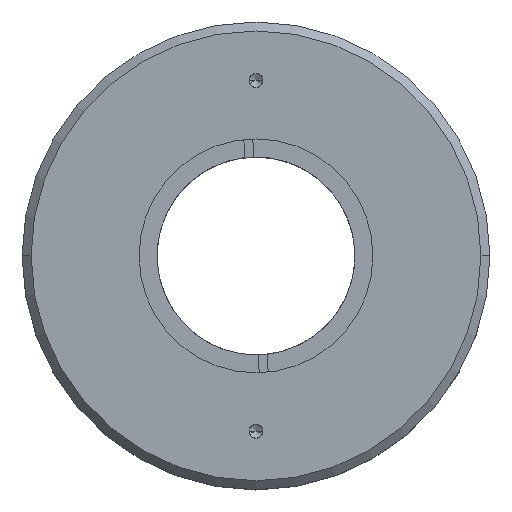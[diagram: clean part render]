
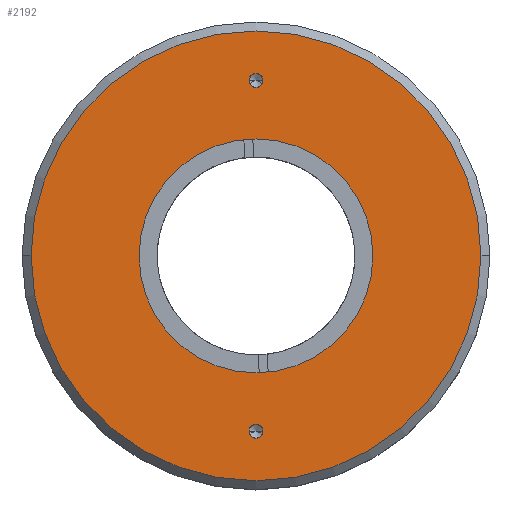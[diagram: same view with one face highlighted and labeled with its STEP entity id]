
A CAD part, top view. The second image highlights one B-rep face of the part: STEP entity #2192.
In plain terms, the highlighted planar face has unit normal (0, 0, 1).
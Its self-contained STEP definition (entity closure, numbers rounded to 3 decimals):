
#24 = DIRECTION ( 'NONE',  ( 1., 0., 0. ) ) ;
#35 = ORIENTED_EDGE ( 'NONE', *, *, #4574, .F. ) ;
#136 = CARTESIAN_POINT ( 'NONE',  ( -8.119, -2.293, 59.5 ) ) ;
#137 = CARTESIAN_POINT ( 'NONE',  ( -7.344, -21.793, 59.5 ) ) ;
#333 = CIRCLE ( 'NONE', #7003, 25. ) ;
#473 = DIRECTION ( 'NONE',  ( 0., 0., 1. ) ) ;
#476 = ORIENTED_EDGE ( 'NONE', *, *, #1458, .F. ) ;
#497 = VERTEX_POINT ( 'NONE', #6366 ) ;
#652 = DIRECTION ( 'NONE',  ( 1., 0., 0. ) ) ;
#773 = DIRECTION ( 'NONE',  ( 1., 0., 0. ) ) ;
#906 = DIRECTION ( 'NONE',  ( 0., 0., 1. ) ) ;
#999 = DIRECTION ( 'NONE',  ( 0., 0., 1. ) ) ;
#1026 = CARTESIAN_POINT ( 'NONE',  ( -8.119, -2.293, 59.5 ) ) ;
#1105 = AXIS2_PLACEMENT_3D ( 'NONE', #1026, #1128, #3228 ) ;
#1128 = DIRECTION ( 'NONE',  ( 0., 0., 1. ) ) ;
#1207 = DIRECTION ( 'NONE',  ( 1., 0., 0. ) ) ;
#1253 = DIRECTION ( 'NONE',  ( 1., 0., 0. ) ) ;
#1313 = CIRCLE ( 'NONE', #6515, 0.775 ) ;
#1458 = EDGE_CURVE ( 'NONE', #5851, #4945, #6759, .T. ) ;
#1538 = AXIS2_PLACEMENT_3D ( 'NONE', #3945, #4473, #773 ) ;
#1655 = VERTEX_POINT ( 'NONE', #6296 ) ;
#2010 = DIRECTION ( 'NONE',  ( 1., 0., 0. ) ) ;
#2031 = EDGE_CURVE ( 'NONE', #1655, #2499, #5895, .T. ) ;
#2043 = EDGE_CURVE ( 'NONE', #5588, #497, #333, .T. ) ;
#2192 = ADVANCED_FACE ( 'NONE', ( #3847, #4804, #5899, #4307 ), #4842, .T. ) ;
#2410 = ORIENTED_EDGE ( 'NONE', *, *, #4112, .T. ) ;
#2499 = VERTEX_POINT ( 'NONE', #5366 ) ;
#2615 = VERTEX_POINT ( 'NONE', #4927 ) ;
#2733 = DIRECTION ( 'NONE',  ( 0., 0., 1. ) ) ;
#2781 = CIRCLE ( 'NONE', #3027, 25. ) ;
#2914 = CARTESIAN_POINT ( 'NONE',  ( -7.344, 17.207, 59.5 ) ) ;
#2937 = VERTEX_POINT ( 'NONE', #2914 ) ;
#3027 = AXIS2_PLACEMENT_3D ( 'NONE', #5882, #906, #2010 ) ;
#3107 = AXIS2_PLACEMENT_3D ( 'NONE', #6609, #2733, #1253 ) ;
#3228 = DIRECTION ( 'NONE',  ( 1., 0., 0. ) ) ;
#3359 = CIRCLE ( 'NONE', #3944, 0.775 ) ;
#3458 = CIRCLE ( 'NONE', #3107, 13. ) ;
#3796 = EDGE_LOOP ( 'NONE', ( #35, #476 ) ) ;
#3847 = FACE_BOUND ( 'NONE', #4937, .T. ) ;
#3944 = AXIS2_PLACEMENT_3D ( 'NONE', #5357, #473, #652 ) ;
#3945 = CARTESIAN_POINT ( 'NONE',  ( -8.119, -21.793, 59.5 ) ) ;
#3947 = CARTESIAN_POINT ( 'NONE',  ( -8.894, -21.793, 59.5 ) ) ;
#3967 = DIRECTION ( 'NONE',  ( 0., 0., 1. ) ) ;
#4007 = DIRECTION ( 'NONE',  ( 0., 0., 1. ) ) ;
#4112 = EDGE_CURVE ( 'NONE', #497, #5588, #2781, .T. ) ;
#4153 = EDGE_CURVE ( 'NONE', #2937, #2615, #3359, .T. ) ;
#4291 = CIRCLE ( 'NONE', #6531, 0.775 ) ;
#4307 = FACE_BOUND ( 'NONE', #6839, .T. ) ;
#4418 = DIRECTION ( 'NONE',  ( 1., 0., 0. ) ) ;
#4473 = DIRECTION ( 'NONE',  ( 0., 0., 1. ) ) ;
#4574 = EDGE_CURVE ( 'NONE', #4945, #5851, #1313, .T. ) ;
#4794 = ORIENTED_EDGE ( 'NONE', *, *, #4978, .F. ) ;
#4804 = FACE_BOUND ( 'NONE', #3796, .T. ) ;
#4842 = PLANE ( 'NONE',  #1105 ) ;
#4927 = CARTESIAN_POINT ( 'NONE',  ( -8.894, 17.207, 59.5 ) ) ;
#4937 = EDGE_LOOP ( 'NONE', ( #5160, #4794 ) ) ;
#4945 = VERTEX_POINT ( 'NONE', #137 ) ;
#4978 = EDGE_CURVE ( 'NONE', #2615, #2937, #4291, .T. ) ;
#4991 = DIRECTION ( 'NONE',  ( 1., 0., 0. ) ) ;
#5160 = ORIENTED_EDGE ( 'NONE', *, *, #4153, .F. ) ;
#5357 = CARTESIAN_POINT ( 'NONE',  ( -8.119, 17.207, 59.5 ) ) ;
#5366 = CARTESIAN_POINT ( 'NONE',  ( 4.881, -2.293, 59.5 ) ) ;
#5588 = VERTEX_POINT ( 'NONE', #6011 ) ;
#5596 = CARTESIAN_POINT ( 'NONE',  ( -8.119, -2.293, 59.5 ) ) ;
#5786 = AXIS2_PLACEMENT_3D ( 'NONE', #136, #4007, #4418 ) ;
#5851 = VERTEX_POINT ( 'NONE', #3947 ) ;
#5882 = CARTESIAN_POINT ( 'NONE',  ( -8.119, -2.293, 59.5 ) ) ;
#5895 = CIRCLE ( 'NONE', #5786, 13. ) ;
#5899 = FACE_OUTER_BOUND ( 'NONE', #6809, .T. ) ;
#6011 = CARTESIAN_POINT ( 'NONE',  ( 16.881, -2.293, 59.5 ) ) ;
#6073 = CARTESIAN_POINT ( 'NONE',  ( -8.119, 17.207, 59.5 ) ) ;
#6220 = ORIENTED_EDGE ( 'NONE', *, *, #2043, .T. ) ;
#6296 = CARTESIAN_POINT ( 'NONE',  ( -21.119, -2.293, 59.5 ) ) ;
#6366 = CARTESIAN_POINT ( 'NONE',  ( -33.119, -2.293, 59.5 ) ) ;
#6379 = ORIENTED_EDGE ( 'NONE', *, *, #6386, .F. ) ;
#6386 = EDGE_CURVE ( 'NONE', #2499, #1655, #3458, .T. ) ;
#6424 = CARTESIAN_POINT ( 'NONE',  ( -8.119, -21.793, 59.5 ) ) ;
#6515 = AXIS2_PLACEMENT_3D ( 'NONE', #6424, #999, #24 ) ;
#6531 = AXIS2_PLACEMENT_3D ( 'NONE', #6073, #3967, #1207 ) ;
#6562 = DIRECTION ( 'NONE',  ( 0., 0., 1. ) ) ;
#6609 = CARTESIAN_POINT ( 'NONE',  ( -8.119, -2.293, 59.5 ) ) ;
#6759 = CIRCLE ( 'NONE', #1538, 0.775 ) ;
#6809 = EDGE_LOOP ( 'NONE', ( #2410, #6220 ) ) ;
#6839 = EDGE_LOOP ( 'NONE', ( #6379, #6968 ) ) ;
#6968 = ORIENTED_EDGE ( 'NONE', *, *, #2031, .F. ) ;
#7003 = AXIS2_PLACEMENT_3D ( 'NONE', #5596, #6562, #4991 ) ;
